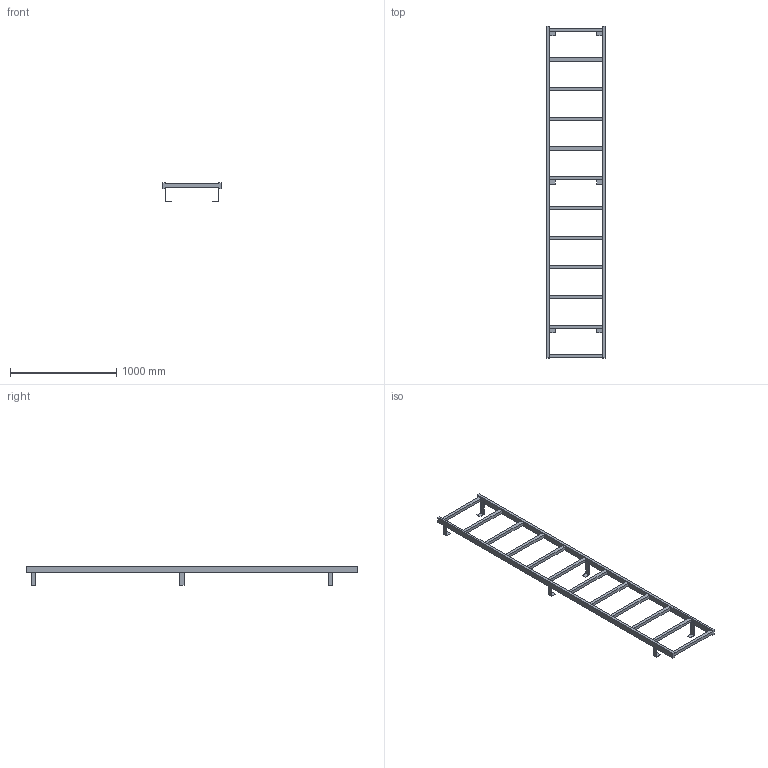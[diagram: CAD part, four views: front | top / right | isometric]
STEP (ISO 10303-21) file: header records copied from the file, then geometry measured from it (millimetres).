
FILE_DESCRIPTION((''),'2;1');
FILE_NAME('52311195','2024-10-17T13:47:25',('wep'),('HUBER SE'),'CREO PARAMETRIC BY PTC INC, 2022162','CREO PARAMETRIC BY PTC INC, 2022162','');
FILE_SCHEMA(('AUTOMOTIVE_DESIGN { 1 0 10303 214 1 1 1 1 }'));
Length unit declared in the file: millimetre
Products named in the file (1): 52311195
Bounding box: 550 x 3130 x 178.5 mm (x, y, z)
Volume: 14417940 mm3; surface area: 1819972 mm2
Topology: 1 solids, 1 shells, 106 faces, 312 edges, 202 vertices
Faces by surface type: plane 106
Entity records: 4045 total; most frequent: ORIENTED_EDGE 624, CARTESIAN_POINT 622, DIRECTION 524, VECTOR 312, LINE 312, EDGE_CURVE 312, VERTEX_POINT 202, EDGE_LOOP 122
